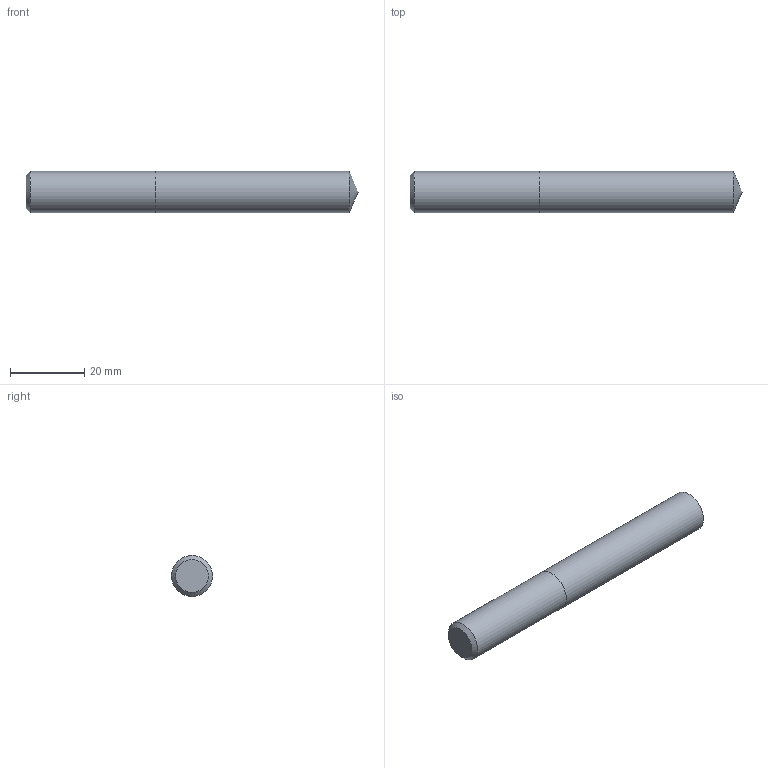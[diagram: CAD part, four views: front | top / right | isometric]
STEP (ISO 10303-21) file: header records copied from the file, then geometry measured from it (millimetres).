
FILE_DESCRIPTION (( 'STEP AP214' ), '1' );
FILE_NAME ('03-2427.STEP', '2022-06-03T07:37:59', ( 'USER' ), ( '' ), 'SwSTEP 2.0', 'SolidWorks 2018', '' );
FILE_SCHEMA (( 'AUTOMOTIVE_DESIGN' ));
Length unit declared in the file: inch
Products named in the file (1): 03-2427
Bounding box: 89.61 x 11.11 x 11.11 mm (x, y, z)
Volume: 8522.5 mm3; surface area: 3419.8 mm2
Topology: 2 solids, 2 shells, 7 faces, 11 edges, 7 vertices
Faces by surface type: plane 3, cylinder 2, cone 2
Full cylindrical faces by diameter (mm): 11.113 x2
Entity records: 214 total; most frequent: DIRECTION 26, CARTESIAN_POINT 18, AXIS2_PLACEMENT_3D 13, EDGE_LOOP 10, ORIENTED_EDGE 10, FACE_OUTER_BOUND 9, UNCERTAINTY_MEASURE_WITH_UNIT 7, DIMENSIONAL_EXPONENTS 7
